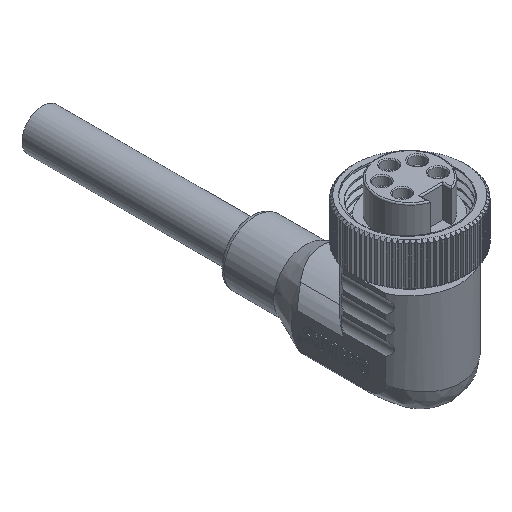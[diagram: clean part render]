
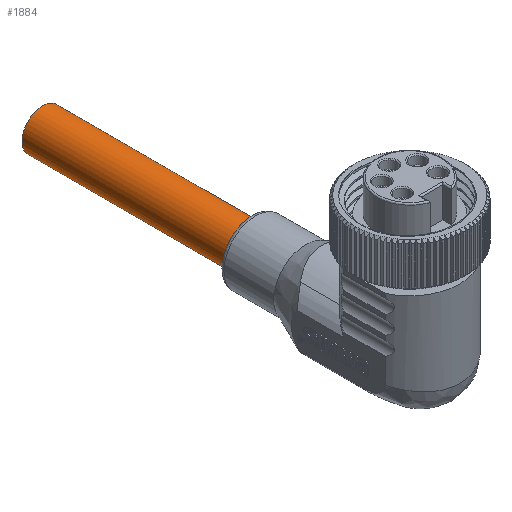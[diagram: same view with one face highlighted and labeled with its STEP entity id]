
A CAD part, isometric view. The second image highlights one B-rep face of the part: STEP entity #1884.
In plain terms, the highlighted cylindrical face has radius 4.5 mm (diameter 9 mm), a full revolution.
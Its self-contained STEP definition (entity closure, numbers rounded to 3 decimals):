
#523=CYLINDRICAL_SURFACE('',#11053,4.5);
#661=CIRCLE('',#10938,4.5);
#682=CIRCLE('',#11052,4.5);
#1884=ADVANCED_FACE('',(#4000,#4001),#523,.T.);
#4000=FACE_BOUND('',#4353,.T.);
#4001=FACE_BOUND('',#4354,.T.);
#4353=EDGE_LOOP('',(#5683));
#4354=EDGE_LOOP('',(#5684));
#5683=ORIENTED_EDGE('',*,*,#9299,.F.);
#5684=ORIENTED_EDGE('',*,*,#9009,.T.);
#8068=VERTEX_POINT('',#15430);
#8262=VERTEX_POINT('',#17202);
#9009=EDGE_CURVE('',#8068,#8068,#661,.T.);
#9299=EDGE_CURVE('',#8262,#8262,#682,.T.);
#10938=AXIS2_PLACEMENT_3D('',#15429,#12140,#12141);
#11052=AXIS2_PLACEMENT_3D('',#17201,#12594,#12595);
#11053=AXIS2_PLACEMENT_3D('',#17203,#12596,#12597);
#12140=DIRECTION('',(0.,1.,0.));
#12141=DIRECTION('',(1.,0.,0.));
#12594=DIRECTION('',(0.,1.,0.));
#12595=DIRECTION('',(1.,0.,0.));
#12596=DIRECTION('',(0.,-1.,0.));
#12597=DIRECTION('',(0.,0.,1.));
#15429=CARTESIAN_POINT('',(0.,35.,-24.8));
#15430=CARTESIAN_POINT('',(4.5,35.,-24.8));
#17201=CARTESIAN_POINT('',(0.,81.,-24.8));
#17202=CARTESIAN_POINT('',(4.5,81.,-24.8));
#17203=CARTESIAN_POINT('',(0.,81.,-24.8));
